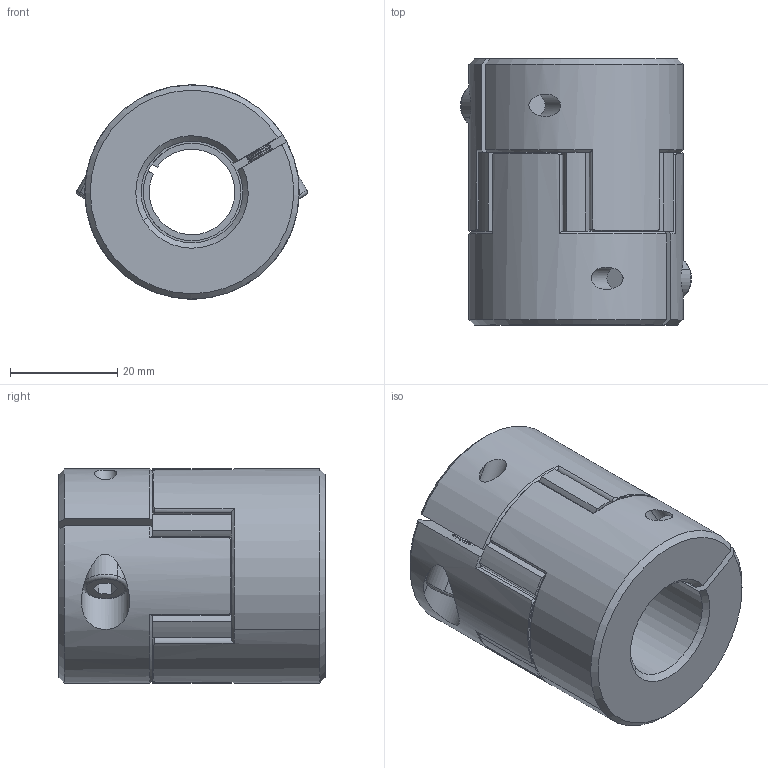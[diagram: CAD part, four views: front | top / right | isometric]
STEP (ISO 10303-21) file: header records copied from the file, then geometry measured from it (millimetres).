
FILE_DESCRIPTION (( 'STEP AP203' ), '1' );
FILE_NAME ('LF-B-D40L50-16-19.STEP', '2021-10-27T05:50:23', ( '' ), ( '' ), 'SwSTEP 2.0', 'SolidWorks 2018', '' );
FILE_SCHEMA (( 'CONFIG_CONTROL_DESIGN' ));
Length unit declared in the file: millimetre
Products named in the file (1): LF-B-D40L50-16-19
Bounding box: 43.11 x 49.7 x 40 mm (x, y, z)
Volume: 48532.8 mm3; surface area: 14603.4 mm2
Topology: 1 solids, 7 shells, 470 faces, 1113 edges, 660 vertices
Faces by surface type: cone 170, cylinder 169, plane 127, torus 4
Entity records: 13932 total; most frequent: CARTESIAN_POINT 2888, DIRECTION 2501, ORIENTED_EDGE 2218, EDGE_CURVE 1109, AXIS2_PLACEMENT_3D 1037, VERTEX_POINT 660, CIRCLE 566, EDGE_LOOP 487
